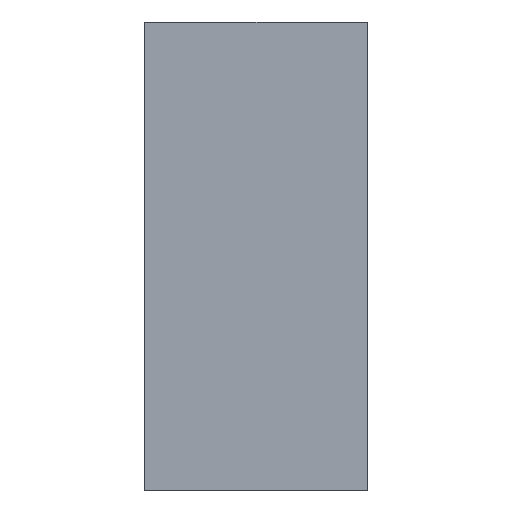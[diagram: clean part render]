
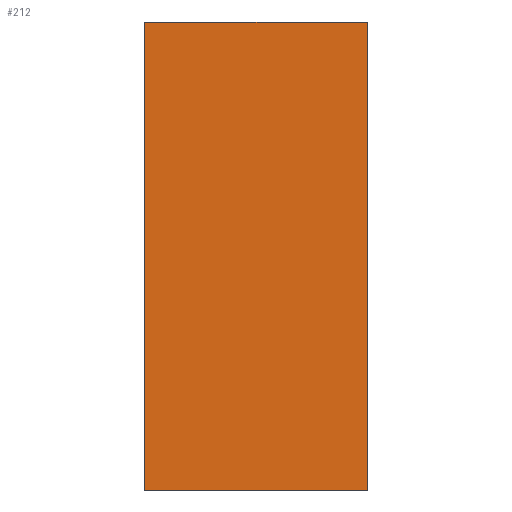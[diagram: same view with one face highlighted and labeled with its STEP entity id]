
A CAD part, left-side view. The second image highlights one B-rep face of the part: STEP entity #212.
In plain terms, the highlighted planar face has unit normal (-1, 0, 0).
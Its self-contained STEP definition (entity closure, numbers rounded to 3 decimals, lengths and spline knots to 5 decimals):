
#212=ADVANCED_FACE('0:118',(#367),#368,.F.);
#367=FACE_OUTER_BOUND('',#572,.T.);
#368=PLANE('',#573);
#572=EDGE_LOOP('',(#1037,#1038,#1039,#1040));
#573=AXIS2_PLACEMENT_3D('',#1041,#1042,#1043);
#1037=ORIENTED_EDGE('',*,*,#1616,.T.);
#1038=ORIENTED_EDGE('',*,*,#1595,.T.);
#1039=ORIENTED_EDGE('',*,*,#1617,.T.);
#1040=ORIENTED_EDGE('',*,*,#1618,.T.);
#1041=CARTESIAN_POINT('',(-0.059,0.0095,-0.07705));
#1042=DIRECTION('',(1.0,0.,0.));
#1043=DIRECTION('',(0.,-1.0,0.0));
#1595=EDGE_CURVE('0:336',#1929,#1934,#1936,.T.);
#1616=EDGE_CURVE('0:414',#1973,#1929,#1974,.T.);
#1617=EDGE_CURVE('0:417',#1934,#1975,#1976,.T.);
#1618=EDGE_CURVE('0:420',#1975,#1973,#1977,.T.);
#1929=VERTEX_POINT('',#2401);
#1934=VERTEX_POINT('',#2408);
#1936=LINE('',#2411,#2412);
#1973=VERTEX_POINT('',#2463);
#1974=LINE('',#2464,#2465);
#1975=VERTEX_POINT('',#2466);
#1976=LINE('',#2467,#2468);
#1977=LINE('',#2469,#2470);
#2401=CARTESIAN_POINT('',(-0.059,-0.0095,0.04));
#2408=CARTESIAN_POINT('',(-0.059,0.0095,0.04));
#2411=CARTESIAN_POINT('',(-0.059,0.0095,0.04));
#2412=VECTOR('',#2960,1.0);
#2463=CARTESIAN_POINT('',(-0.059,-0.0095,0.0));
#2464=CARTESIAN_POINT('',(-0.059,-0.0095,-0.07705));
#2465=VECTOR('',#2993,1.0);
#2466=CARTESIAN_POINT('',(-0.059,0.0095,0.0));
#2467=CARTESIAN_POINT('',(-0.059,0.0095,-0.07705));
#2468=VECTOR('',#2994,1.0);
#2469=CARTESIAN_POINT('',(-0.059,0.0095,0.0));
#2470=VECTOR('',#2995,1.0);
#2960=DIRECTION('',(0.,1.0,0.));
#2993=DIRECTION('',(0.0,0.,1.0));
#2994=DIRECTION('',(0.0,0.,-1.0));
#2995=DIRECTION('',(0.,-1.0,0.));
